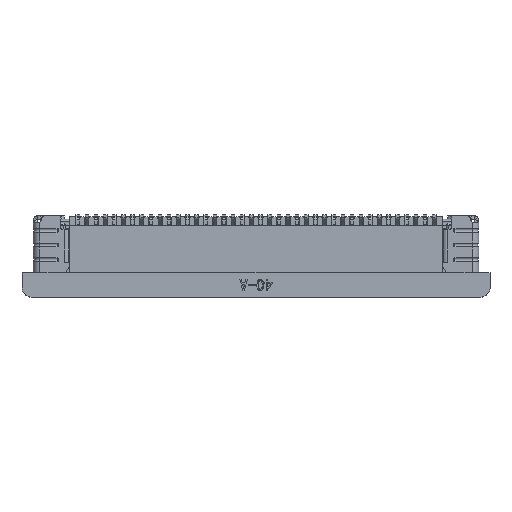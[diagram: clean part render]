
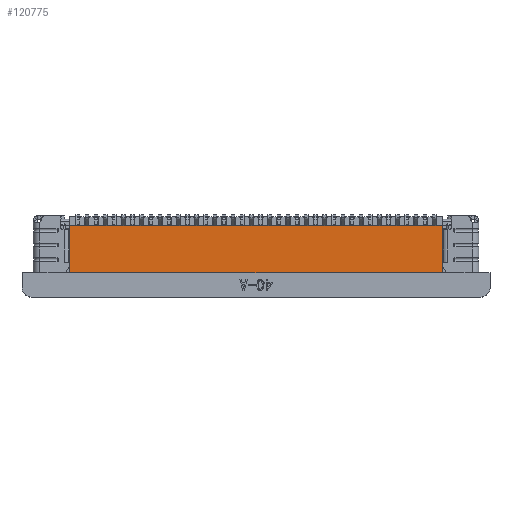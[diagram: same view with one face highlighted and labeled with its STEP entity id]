
A CAD part, top view. The second image highlights one B-rep face of the part: STEP entity #120775.
In plain terms, the highlighted planar face has unit normal (0, 0, 1).
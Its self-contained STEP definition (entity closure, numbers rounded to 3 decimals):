
#100308=DIRECTION('',(-1.,0.,0.));
#100309=VECTOR('',#100308,20.4);
#100310=CARTESIAN_POINT('',(2.7,-0.5,1.));
#100311=LINE('',#100310,#100309);
#100312=DIRECTION('',(0.,1.,0.));
#100313=VECTOR('',#100312,2.57);
#100314=CARTESIAN_POINT('',(2.7,-3.07,1.));
#100315=LINE('',#100314,#100313);
#100316=DIRECTION('',(1.,0.,0.));
#100317=VECTOR('',#100316,20.4);
#100318=CARTESIAN_POINT('',(-17.7,-3.07,1.));
#100319=LINE('',#100318,#100317);
#100320=DIRECTION('',(0.,-1.,0.));
#100321=VECTOR('',#100320,2.57);
#100322=CARTESIAN_POINT('',(-17.7,-0.5,1.));
#100323=LINE('',#100322,#100321);
#115724=CARTESIAN_POINT('',(2.7,-0.5,1.));
#115725=CARTESIAN_POINT('',(-17.7,-0.5,1.));
#115726=VERTEX_POINT('',#115724);
#115727=VERTEX_POINT('',#115725);
#115728=CARTESIAN_POINT('',(-17.7,-3.07,1.));
#115729=VERTEX_POINT('',#115728);
#115730=CARTESIAN_POINT('',(2.7,-3.07,1.));
#115731=VERTEX_POINT('',#115730);
#120760=CARTESIAN_POINT('',(-19.46,-0.1,1.));
#120761=DIRECTION('',(0.,0.,-1.));
#120762=DIRECTION('',(1.,0.,0.));
#120763=AXIS2_PLACEMENT_3D('',#120760,#120761,#120762);
#120764=PLANE('',#120763);
#120766=ORIENTED_EDGE('',*,*,#120765,.F.);
#120768=ORIENTED_EDGE('',*,*,#120767,.F.);
#120770=ORIENTED_EDGE('',*,*,#120769,.F.);
#120772=ORIENTED_EDGE('',*,*,#120771,.F.);
#120773=EDGE_LOOP('',(#120766,#120768,#120770,#120772));
#120774=FACE_OUTER_BOUND('',#120773,.F.);
#120775=ADVANCED_FACE('',(#120774),#120764,.F.);
#120765=EDGE_CURVE('',#115726,#115727,#100311,.T.);
#120767=EDGE_CURVE('',#115731,#115726,#100315,.T.);
#120769=EDGE_CURVE('',#115729,#115731,#100319,.T.);
#120771=EDGE_CURVE('',#115727,#115729,#100323,.T.);
